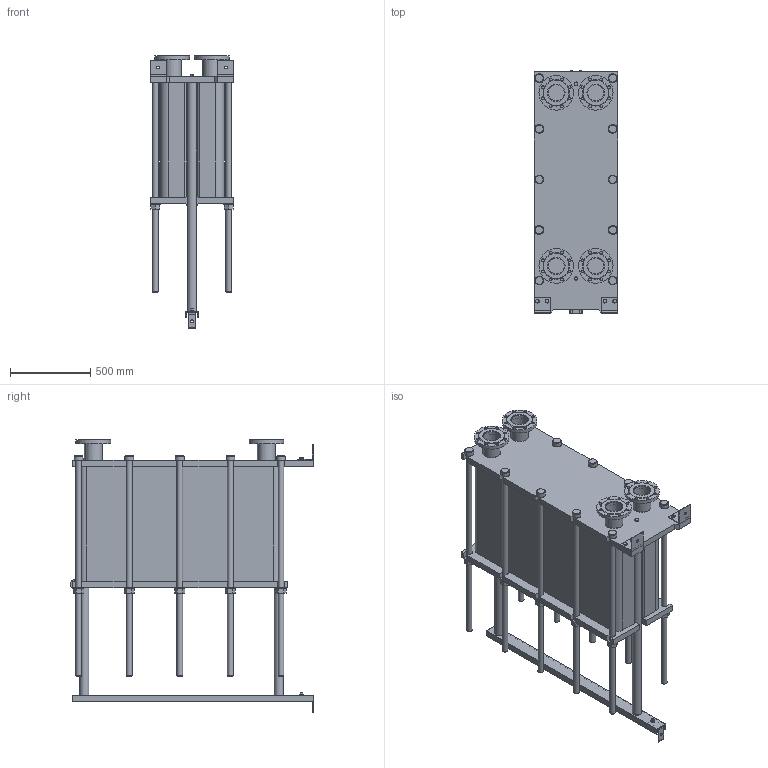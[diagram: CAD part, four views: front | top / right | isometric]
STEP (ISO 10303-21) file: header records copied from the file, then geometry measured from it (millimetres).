
FILE_DESCRIPTION(/* description */ (''),/* implementation_level */ '2;1');
FILE_NAME(/* name */ 'C:\Users\zhuro\Desktop\ENCO\TO\ЭН-04\ЭН-0,5-04-206-1.stp',/* time_stamp */ '2022-06-06T11:04:16+03:00',/* author */ ('zhuro'),/* organization */ (''),/* preprocessor_version */ 'ST-DEVELOPER v18.1',/* originating_system */ 'Autodesk Inventor 2022',/* authorisation */ '');
FILE_SCHEMA (('AUTOMOTIVE_DESIGN { 1 0 10303 214 3 1 1 }'));
Length unit declared in the file: millimetre
Products named in the file (1): ЭН-0,5-04-206-1
Bounding box: 520 x 1510 x 1698 mm (x, y, z)
Volume: 432088635.3 mm3; surface area: 10686212 mm2
Topology: 45 solids, 45 shells, 668 faces, 1611 edges, 1048 vertices
Faces by surface type: plane 457, cylinder 166, cone 39, torus 6
Full cylindrical faces by diameter (mm): 8 x4, 10 x2, 16 x8, 18 x35, 36 x25, 40 x2, 42 x1, 45 x4, 54 x10, 57 x2, 60 x10, 68 x2, 100 x4, 110 x8, 215 x4
Entity records: 23607 total; most frequent: CARTESIAN_POINT 7348, DIRECTION 3371, ORIENTED_EDGE 3142, EDGE_CURVE 1571, AXIS2_PLACEMENT_3D 1199, VERTEX_POINT 1044, LINE 973, VECTOR 973
